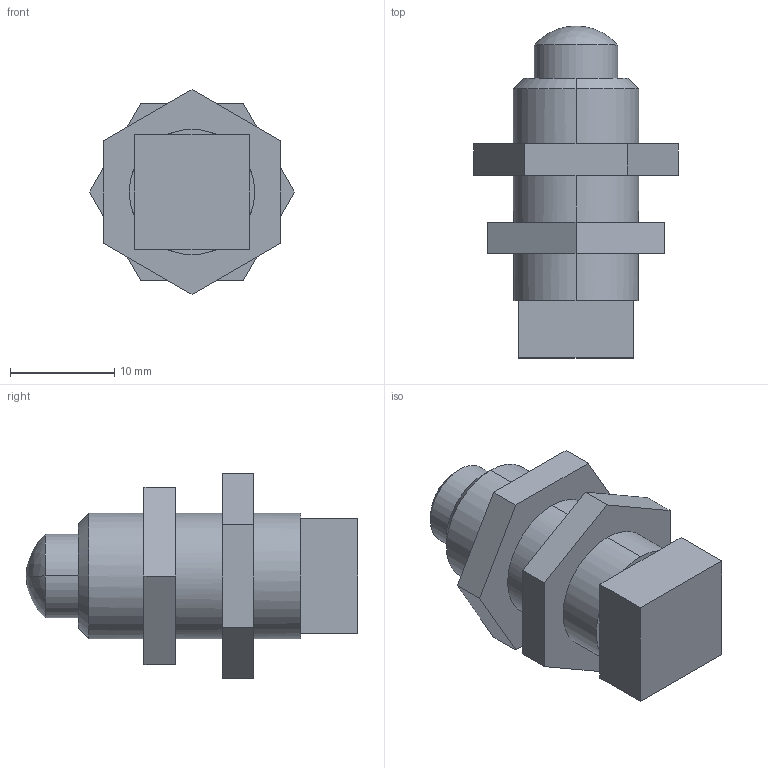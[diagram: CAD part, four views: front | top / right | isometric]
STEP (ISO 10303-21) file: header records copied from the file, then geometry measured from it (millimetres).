
FILE_DESCRIPTION (( 'STEP AP203' ), '1' );
FILE_NAME ('ZF_STEP_VN_AA0EB_A09.step', '2009-06-25T20:06:31', ( 'mario' ), ( '' ), 'SwSTEP 2.0', 'SolidWorks 2009', '' );
FILE_SCHEMA (( 'CONFIG_CONTROL_DESIGN' ));
Length unit declared in the file: millimetre
Products named in the file (4): Pizzato_supporto_EB; ZF_STEP_VN_AA0EB_A09; Pizzato_Pistoncino_EB_Versione pistoncino per VN AA0EB; Pizzato_Dado_35_35
Assembly tree (4 placements, depth 2):
  ZF_STEP_VN_AA0EB_A09
    Pizzato_supporto_EB
    Pizzato_Dado_35_35  x2
    Pizzato_Pistoncino_EB_Versione pistoncino per VN AA0EB
Bounding box: 19.63 x 31.8 x 19.63 mm (x, y, z)
Volume: 3837.1 mm3; surface area: 2721.3 mm2
Topology: 4 solids, 4 shells, 46 faces, 100 edges, 63 vertices
Faces by surface type: plane 32, cylinder 10, cone 2, sphere 2
Entity records: 1410 total; most frequent: DIRECTION 190, CARTESIAN_POINT 166, ORIENTED_EDGE 152, EDGE_CURVE 76, AXIS2_PLACEMENT_3D 71, VECTOR 48, LINE 48, VERTEX_POINT 47
